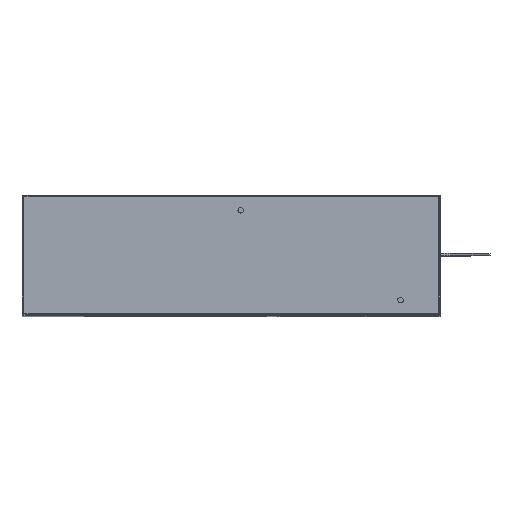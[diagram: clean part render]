
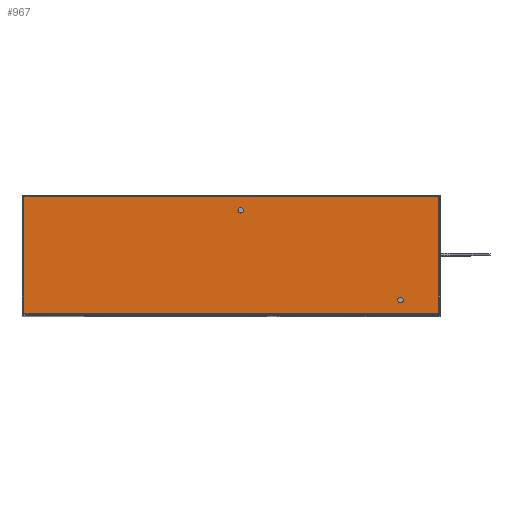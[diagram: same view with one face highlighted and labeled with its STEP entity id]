
A CAD part, top view. The second image highlights one B-rep face of the part: STEP entity #967.
In plain terms, the highlighted planar face has unit normal (0, 0, 1).
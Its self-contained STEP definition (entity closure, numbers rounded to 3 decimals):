
#65=FACE_BOUND('',#1690,.T.);
#66=FACE_BOUND('',#1691,.T.);
#264=(
BOUNDED_CURVE()
B_SPLINE_CURVE(2,(#14191,#14192,#14193),.UNSPECIFIED.,.F.,.F.)
B_SPLINE_CURVE_WITH_KNOTS((3,3),(0.,1.571),.UNSPECIFIED.)
CURVE()
GEOMETRIC_REPRESENTATION_ITEM()
RATIONAL_B_SPLINE_CURVE((1.,0.707,1.))
REPRESENTATION_ITEM('')
);
#270=(
BOUNDED_CURVE()
B_SPLINE_CURVE(2,(#15537,#15538,#15539,#15540,#15541,#15542,#15543,#15544,
#15545),.UNSPECIFIED.,.T.,.F.)
B_SPLINE_CURVE_WITH_KNOTS((3,2,2,2,3),(-17.279,-12.959,
-8.639,-4.32,0.),.UNSPECIFIED.)
CURVE()
GEOMETRIC_REPRESENTATION_ITEM()
RATIONAL_B_SPLINE_CURVE((1.,0.707,1.,0.707,1.,0.707,
1.,0.707,1.))
REPRESENTATION_ITEM('')
);
#276=(
BOUNDED_CURVE()
B_SPLINE_CURVE(2,(#15577,#15578,#15579,#15580,#15581,#15582,#15583,#15584,
#15585),.UNSPECIFIED.,.T.,.F.)
B_SPLINE_CURVE_WITH_KNOTS((3,2,2,2,3),(-17.279,-12.959,
-8.639,-4.32,0.),.UNSPECIFIED.)
CURVE()
GEOMETRIC_REPRESENTATION_ITEM()
RATIONAL_B_SPLINE_CURVE((1.,0.707,1.,0.707,1.,0.707,
1.,0.707,1.))
REPRESENTATION_ITEM('')
);
#967=ADVANCED_FACE('',(#1301,#65,#66),#6242,.T.);
#1301=FACE_OUTER_BOUND('',#1689,.T.);
#1689=EDGE_LOOP('',(#3066,#3067,#3068,#3069,#3070,#3071));
#1690=EDGE_LOOP('',(#3072));
#1691=EDGE_LOOP('',(#3073));
#3066=ORIENTED_EDGE('',*,*,#4471,.T.);
#3067=ORIENTED_EDGE('',*,*,#4467,.F.);
#3068=ORIENTED_EDGE('',*,*,#4090,.T.);
#3069=ORIENTED_EDGE('',*,*,#4094,.T.);
#3070=ORIENTED_EDGE('',*,*,#4472,.T.);
#3071=ORIENTED_EDGE('',*,*,#4470,.F.);
#3072=ORIENTED_EDGE('',*,*,#4489,.T.);
#3073=ORIENTED_EDGE('',*,*,#4495,.T.);
#4090=EDGE_CURVE('',#5580,#5582,#4994,.T.);
#4094=EDGE_CURVE('',#5582,#5584,#264,.T.);
#4467=EDGE_CURVE('',#5580,#5831,#5369,.T.);
#4470=EDGE_CURVE('',#5833,#5834,#5372,.T.);
#4471=EDGE_CURVE('',#5833,#5831,#5373,.T.);
#4472=EDGE_CURVE('',#5584,#5834,#5374,.T.);
#4489=EDGE_CURVE('',#5843,#5843,#270,.T.);
#4495=EDGE_CURVE('',#5847,#5847,#276,.T.);
#4994=B_SPLINE_CURVE_WITH_KNOTS('',1,(#14183,#14184),.UNSPECIFIED.,.F.,
 .F.,(2,2),(-1074.117,-955.117),.UNSPECIFIED.);
#5369=B_SPLINE_CURVE_WITH_KNOTS('',1,(#15459,#15460,#15461),
 .UNSPECIFIED.,.F.,.F.,(2,1,2),(0.,417.059,418.059),
 .UNSPECIFIED.);
#5372=B_SPLINE_CURVE_WITH_KNOTS('',1,(#15466,#15467),.UNSPECIFIED.,.F.,
 .F.,(2,2),(1.,418.059),.UNSPECIFIED.);
#5373=B_SPLINE_CURVE_WITH_KNOTS('',1,(#15468,#15469),.UNSPECIFIED.,.F.,
 .F.,(2,2),(1.,120.),.UNSPECIFIED.);
#5374=B_SPLINE_CURVE_WITH_KNOTS('',1,(#15470,#15471),.UNSPECIFIED.,.F.,
 .F.,(2,2),(-120.,-119.),.UNSPECIFIED.);
#5580=VERTEX_POINT('',#13757);
#5582=VERTEX_POINT('',#13759);
#5584=VERTEX_POINT('',#13761);
#5831=VERTEX_POINT('',#14008);
#5833=VERTEX_POINT('',#14010);
#5834=VERTEX_POINT('',#14011);
#5843=VERTEX_POINT('',#14020);
#5847=VERTEX_POINT('',#14024);
#6242=PLANE('',#6326);
#6326=AXIS2_PLACEMENT_3D('',#12902,#6393,$);
#6393=DIRECTION('',(0.,0.,1.));
#12902=CARTESIAN_POINT('',(0.,119.,904.));
#13757=CARTESIAN_POINT('',(0.,119.,904.));
#13759=CARTESIAN_POINT('',(0.,0.,904.));
#13761=CARTESIAN_POINT('',(1.,-1.,904.));
#14008=CARTESIAN_POINT('',(418.059,119.,904.));
#14010=CARTESIAN_POINT('',(418.059,0.,904.));
#14011=CARTESIAN_POINT('',(1.,0.,904.));
#14020=CARTESIAN_POINT('',(381.809,14.,904.));
#14024=CARTESIAN_POINT('',(221.809,104.,904.));
#14183=CARTESIAN_POINT('',(0.,119.,904.));
#14184=CARTESIAN_POINT('',(0.,0.,904.));
#14191=CARTESIAN_POINT('',(0.,0.,904.));
#14192=CARTESIAN_POINT('',(0.,-1.,904.));
#14193=CARTESIAN_POINT('',(1.,-1.,904.));
#15459=CARTESIAN_POINT('',(0.,119.,904.));
#15460=CARTESIAN_POINT('',(417.059,119.,904.));
#15461=CARTESIAN_POINT('',(418.059,119.,904.));
#15466=CARTESIAN_POINT('',(418.059,0.,904.));
#15467=CARTESIAN_POINT('',(1.,0.,904.));
#15468=CARTESIAN_POINT('',(418.059,0.,904.));
#15469=CARTESIAN_POINT('',(418.059,119.,904.));
#15470=CARTESIAN_POINT('',(1.,-1.,904.));
#15471=CARTESIAN_POINT('',(1.,0.,904.));
#15537=CARTESIAN_POINT('',(381.809,14.,904.));
#15538=CARTESIAN_POINT('',(381.809,11.25,904.));
#15539=CARTESIAN_POINT('',(379.059,11.25,904.));
#15540=CARTESIAN_POINT('',(376.309,11.25,904.));
#15541=CARTESIAN_POINT('',(376.309,14.,904.));
#15542=CARTESIAN_POINT('',(376.309,16.75,904.));
#15543=CARTESIAN_POINT('',(379.059,16.75,904.));
#15544=CARTESIAN_POINT('',(381.809,16.75,904.));
#15545=CARTESIAN_POINT('',(381.809,14.,904.));
#15577=CARTESIAN_POINT('',(221.809,104.,904.));
#15578=CARTESIAN_POINT('',(221.809,101.25,904.));
#15579=CARTESIAN_POINT('',(219.059,101.25,904.));
#15580=CARTESIAN_POINT('',(216.309,101.25,904.));
#15581=CARTESIAN_POINT('',(216.309,104.,904.));
#15582=CARTESIAN_POINT('',(216.309,106.75,904.));
#15583=CARTESIAN_POINT('',(219.059,106.75,904.));
#15584=CARTESIAN_POINT('',(221.809,106.75,904.));
#15585=CARTESIAN_POINT('',(221.809,104.,904.));
